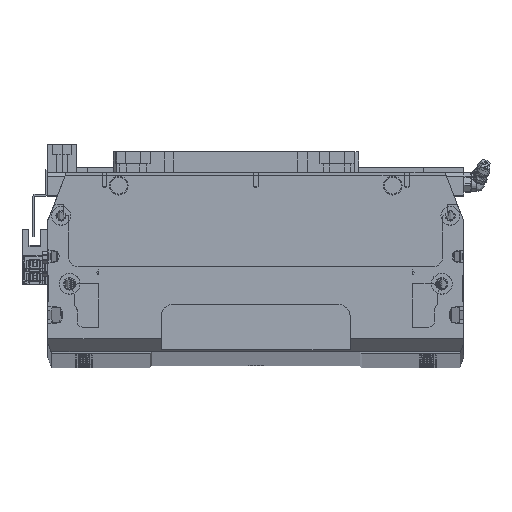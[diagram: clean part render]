
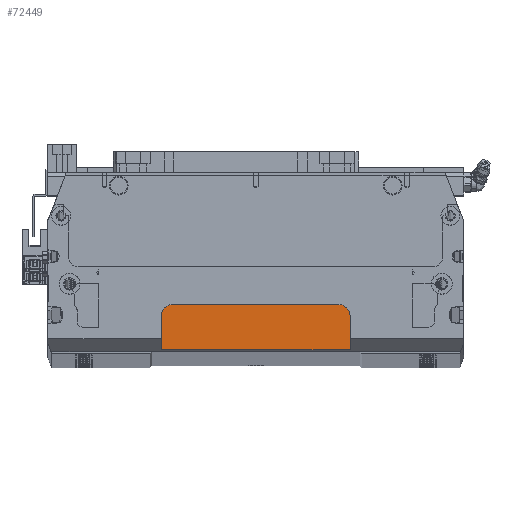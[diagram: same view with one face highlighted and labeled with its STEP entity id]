
A CAD part, top view. The second image highlights one B-rep face of the part: STEP entity #72449.
In plain terms, the highlighted planar face has unit normal (0, 0, 1) as drawn and (0, 1, 0) by its records, which use the part's own axes.
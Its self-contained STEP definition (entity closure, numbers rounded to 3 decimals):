
#5839 = ORIENTED_EDGE ( 'NONE', *, *, #370609, .T. ) ;
#10196 = LINE ( 'NONE', #227191, #421572 ) ;
#10611 = DIRECTION ( 'NONE',  ( 0., 0., -1. ) ) ;
#14966 = VECTOR ( 'NONE', #195393, 1000. ) ;
#20252 = EDGE_CURVE ( 'NONE', #104921, #457487, #455245, .T. ) ;
#22207 = CIRCLE ( 'NONE', #127781, 6. ) ;
#25015 = LINE ( 'NONE', #334467, #221812 ) ;
#26562 = AXIS2_PLACEMENT_3D ( 'NONE', #279487, #465618, #245481 ) ;
#44751 = CARTESIAN_POINT ( 'NONE',  ( 44., 8., 39.25 ) ) ;
#47837 = CARTESIAN_POINT ( 'NONE',  ( -44., 8., 39.25 ) ) ;
#72449 = ADVANCED_FACE ( 'NONE', ( #180901 ), #98225, .F. ) ;
#77155 = DIRECTION ( 'NONE',  ( 0., 0., -1. ) ) ;
#79877 = ORIENTED_EDGE ( 'NONE', *, *, #458944, .T. ) ;
#95569 = ORIENTED_EDGE ( 'NONE', *, *, #434777, .F. ) ;
#95619 = VECTOR ( 'NONE', #212547, 1000. ) ;
#98225 = PLANE ( 'NONE',  #26562 ) ;
#104921 = VERTEX_POINT ( 'NONE', #401990 ) ;
#112797 = DIRECTION ( 'NONE',  ( -1., 0., 0. ) ) ;
#118234 = EDGE_CURVE ( 'NONE', #293659, #104921, #22207, .T. ) ;
#127781 = AXIS2_PLACEMENT_3D ( 'NONE', #47837, #447647, #10611 ) ;
#148862 = VERTEX_POINT ( 'NONE', #232536 ) ;
#156571 = CARTESIAN_POINT ( 'NONE',  ( -50., 8., 58.25 ) ) ;
#161579 = CARTESIAN_POINT ( 'NONE',  ( 50., 8., 39.25 ) ) ;
#170239 = VERTEX_POINT ( 'NONE', #267772 ) ;
#180901 = FACE_OUTER_BOUND ( 'NONE', #240221, .T. ) ;
#187189 = DIRECTION ( 'NONE',  ( 0., 1., 0. ) ) ;
#195393 = DIRECTION ( 'NONE',  ( 0., 0., 1. ) ) ;
#212547 = DIRECTION ( 'NONE',  ( -1., 0., 0. ) ) ;
#221812 = VECTOR ( 'NONE', #112797, 1000. ) ;
#227191 = CARTESIAN_POINT ( 'NONE',  ( 50., 8., 58.25 ) ) ;
#232536 = CARTESIAN_POINT ( 'NONE',  ( 50., 8., 57.25 ) ) ;
#240221 = EDGE_LOOP ( 'NONE', ( #340936, #5839, #79877, #301286, #385560, #95569 ) ) ;
#245481 = DIRECTION ( 'NONE',  ( 0., 0., -1. ) ) ;
#267772 = CARTESIAN_POINT ( 'NONE',  ( 44., 8., 33.25 ) ) ;
#269184 = DIRECTION ( 'NONE',  ( 0., 0., -1. ) ) ;
#271546 = AXIS2_PLACEMENT_3D ( 'NONE', #44751, #187189, #77155 ) ;
#279487 = CARTESIAN_POINT ( 'NONE',  ( 0., 8., 0. ) ) ;
#286950 = CARTESIAN_POINT ( 'NONE',  ( -50., 8., 33.25 ) ) ;
#293659 = VERTEX_POINT ( 'NONE', #441271 ) ;
#301229 = CARTESIAN_POINT ( 'NONE',  ( -50., 8., 57.25 ) ) ;
#301286 = ORIENTED_EDGE ( 'NONE', *, *, #118234, .T. ) ;
#304417 = VERTEX_POINT ( 'NONE', #161579 ) ;
#334467 = CARTESIAN_POINT ( 'NONE',  ( 110., 8., 57.25 ) ) ;
#340936 = ORIENTED_EDGE ( 'NONE', *, *, #359926, .T. ) ;
#356123 = LINE ( 'NONE', #286950, #95619 ) ;
#359926 = EDGE_CURVE ( 'NONE', #148862, #304417, #10196, .T. ) ;
#370609 = EDGE_CURVE ( 'NONE', #304417, #170239, #408092, .T. ) ;
#385560 = ORIENTED_EDGE ( 'NONE', *, *, #20252, .T. ) ;
#401990 = CARTESIAN_POINT ( 'NONE',  ( -50., 8., 39.25 ) ) ;
#408092 = CIRCLE ( 'NONE', #271546, 6. ) ;
#421572 = VECTOR ( 'NONE', #269184, 1000. ) ;
#434777 = EDGE_CURVE ( 'NONE', #148862, #457487, #25015, .T. ) ;
#441271 = CARTESIAN_POINT ( 'NONE',  ( -44., 8., 33.25 ) ) ;
#447647 = DIRECTION ( 'NONE',  ( 0., 1., 0. ) ) ;
#455245 = LINE ( 'NONE', #156571, #14966 ) ;
#457487 = VERTEX_POINT ( 'NONE', #301229 ) ;
#458944 = EDGE_CURVE ( 'NONE', #170239, #293659, #356123, .T. ) ;
#465618 = DIRECTION ( 'NONE',  ( 0., -1., 0. ) ) ;
